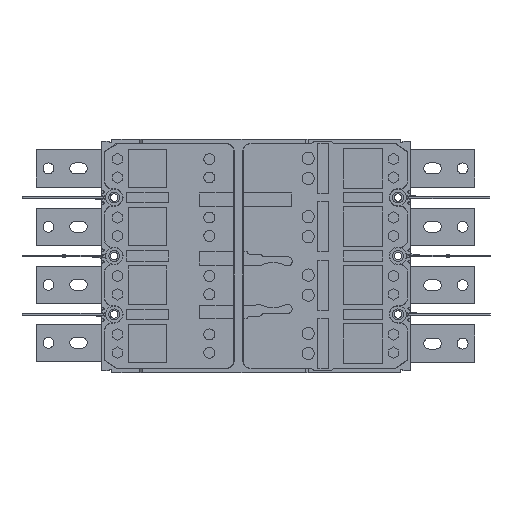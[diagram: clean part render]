
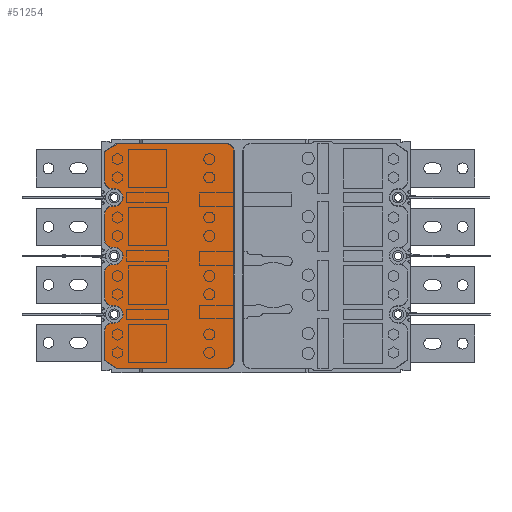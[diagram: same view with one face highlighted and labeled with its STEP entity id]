
A CAD part, top view. The second image highlights one B-rep face of the part: STEP entity #51254.
In plain terms, the highlighted planar face has unit normal (0, 0, 1).
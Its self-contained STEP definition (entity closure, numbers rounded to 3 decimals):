
#50750=DIRECTION('',(0.,1.,0.));
#50751=VECTOR('',#50750,130.25);
#50752=CARTESIAN_POINT('',(269.,9.5,0.8));
#50753=LINE('',#50752,#50751);
#50754=CARTESIAN_POINT('',(259.5,9.5,0.8));
#50755=DIRECTION('',(0.,0.,1.));
#50756=DIRECTION('',(0.,-1.,0.));
#50757=AXIS2_PLACEMENT_3D('',#50754,#50755,#50756);
#50759=DIRECTION('',(1.,0.,0.));
#50760=VECTOR('',#50759,250.);
#50761=CARTESIAN_POINT('',(9.5,0.,0.8));
#50762=LINE('',#50761,#50760);
#50763=CARTESIAN_POINT('',(9.5,9.5,0.8));
#50764=DIRECTION('',(0.,0.,1.));
#50765=DIRECTION('',(-1.,0.,0.));
#50766=AXIS2_PLACEMENT_3D('',#50763,#50764,#50765);
#50768=DIRECTION('',(0.,-1.,0.));
#50769=VECTOR('',#50768,130.5);
#50770=CARTESIAN_POINT('',(0.,140.,0.8));
#50771=LINE('',#50770,#50769);
#50772=DIRECTION('',(-0.551,-0.834,0.));
#50773=VECTOR('',#50772,17.681);
#50774=CARTESIAN_POINT('',(9.75,154.75,0.8));
#50775=LINE('',#50774,#50773);
#50776=DIRECTION('',(-1.,0.,0.));
#50777=VECTOR('',#50776,34.75);
#50778=CARTESIAN_POINT('',(44.5,154.75,0.8));
#50779=LINE('',#50778,#50777);
#50780=CARTESIAN_POINT('',(44.5,145.25,0.8));
#50781=DIRECTION('',(0.,0.,1.));
#50782=DIRECTION('',(1.,0.,0.));
#50783=AXIS2_PLACEMENT_3D('',#50780,#50781,#50782);
#50785=DIRECTION('',(0.,1.,0.));
#50786=VECTOR('',#50785,2.);
#50787=CARTESIAN_POINT('',(54.,143.25,0.8));
#50788=LINE('',#50787,#50786);
#50789=CARTESIAN_POINT('',(64.5,143.25,0.8));
#50790=DIRECTION('',(0.,0.,-1.));
#50791=DIRECTION('',(1.,0.,0.));
#50792=AXIS2_PLACEMENT_3D('',#50789,#50790,#50791);
#50794=DIRECTION('',(0.,-1.,0.));
#50795=VECTOR('',#50794,2.);
#50796=CARTESIAN_POINT('',(75.,145.25,0.8));
#50797=LINE('',#50796,#50795);
#50798=CARTESIAN_POINT('',(84.5,145.25,0.8));
#50799=DIRECTION('',(0.,0.,1.));
#50800=DIRECTION('',(0.,1.,0.));
#50801=AXIS2_PLACEMENT_3D('',#50798,#50799,#50800);
#50803=DIRECTION('',(-1.,0.,0.));
#50804=VECTOR('',#50803,30.);
#50805=CARTESIAN_POINT('',(114.5,154.75,0.8));
#50806=LINE('',#50805,#50804);
#50807=CARTESIAN_POINT('',(114.5,145.25,0.8));
#50808=DIRECTION('',(0.,0.,1.));
#50809=DIRECTION('',(1.,0.,0.));
#50810=AXIS2_PLACEMENT_3D('',#50807,#50808,#50809);
#50812=DIRECTION('',(0.,1.,0.));
#50813=VECTOR('',#50812,2.);
#50814=CARTESIAN_POINT('',(124.,143.25,0.8));
#50815=LINE('',#50814,#50813);
#50816=CARTESIAN_POINT('',(134.5,143.25,0.8));
#50817=DIRECTION('',(0.,0.,-1.));
#50818=DIRECTION('',(1.,0.,0.));
#50819=AXIS2_PLACEMENT_3D('',#50816,#50817,#50818);
#50821=DIRECTION('',(0.,-1.,0.));
#50822=VECTOR('',#50821,2.);
#50823=CARTESIAN_POINT('',(145.,145.25,0.8));
#50824=LINE('',#50823,#50822);
#50825=CARTESIAN_POINT('',(154.5,145.25,0.8));
#50826=DIRECTION('',(0.,0.,1.));
#50827=DIRECTION('',(0.,1.,0.));
#50828=AXIS2_PLACEMENT_3D('',#50825,#50826,#50827);
#50830=DIRECTION('',(-1.,0.,0.));
#50831=VECTOR('',#50830,30.);
#50832=CARTESIAN_POINT('',(184.5,154.75,0.8));
#50833=LINE('',#50832,#50831);
#50834=CARTESIAN_POINT('',(184.5,145.25,0.8));
#50835=DIRECTION('',(0.,0.,1.));
#50836=DIRECTION('',(1.,0.,0.));
#50837=AXIS2_PLACEMENT_3D('',#50834,#50835,#50836);
#50839=DIRECTION('',(0.,1.,0.));
#50840=VECTOR('',#50839,2.);
#50841=CARTESIAN_POINT('',(194.,143.25,0.8));
#50842=LINE('',#50841,#50840);
#50843=CARTESIAN_POINT('',(204.5,143.25,0.8));
#50844=DIRECTION('',(0.,0.,-1.));
#50845=DIRECTION('',(1.,0.,0.));
#50846=AXIS2_PLACEMENT_3D('',#50843,#50844,#50845);
#50848=DIRECTION('',(0.,-1.,0.));
#50849=VECTOR('',#50848,2.);
#50850=CARTESIAN_POINT('',(215.,145.25,0.8));
#50851=LINE('',#50850,#50849);
#50852=CARTESIAN_POINT('',(224.5,145.25,0.8));
#50853=DIRECTION('',(0.,0.,1.));
#50854=DIRECTION('',(0.,1.,0.));
#50855=AXIS2_PLACEMENT_3D('',#50852,#50853,#50854);
#50857=DIRECTION('',(-1.,0.,0.));
#50858=VECTOR('',#50857,34.5);
#50859=CARTESIAN_POINT('',(259.,154.75,0.8));
#50860=LINE('',#50859,#50858);
#50861=DIRECTION('',(-0.555,0.832,0.));
#50862=VECTOR('',#50861,18.028);
#50863=CARTESIAN_POINT('',(269.,139.75,0.8));
#50864=LINE('',#50863,#50862);
#51081=CARTESIAN_POINT('',(114.5,154.75,0.8));
#51083=VERTEX_POINT('',#51081);
#51085=CARTESIAN_POINT('',(9.5,0.,0.8));
#51087=VERTEX_POINT('',#51085);
#51088=CARTESIAN_POINT('',(259.5,0.,0.8));
#51089=VERTEX_POINT('',#51088);
#51094=CARTESIAN_POINT('',(269.,139.75,0.8));
#51096=VERTEX_POINT('',#51094);
#51099=CARTESIAN_POINT('',(44.5,154.75,0.8));
#51101=VERTEX_POINT('',#51099);
#51102=CARTESIAN_POINT('',(269.,9.5,0.8));
#51103=VERTEX_POINT('',#51102);
#51104=CARTESIAN_POINT('',(224.5,154.75,0.8));
#51106=VERTEX_POINT('',#51104);
#51118=CARTESIAN_POINT('',(145.,143.25,0.8));
#51119=CARTESIAN_POINT('',(124.,143.25,0.8));
#51120=VERTEX_POINT('',#51118);
#51121=VERTEX_POINT('',#51119);
#51122=CARTESIAN_POINT('',(0.,140.,0.8));
#51123=CARTESIAN_POINT('',(0.,9.5,0.8));
#51124=VERTEX_POINT('',#51122);
#51125=VERTEX_POINT('',#51123);
#51127=CARTESIAN_POINT('',(259.,154.75,0.8));
#51129=VERTEX_POINT('',#51127);
#51130=CARTESIAN_POINT('',(75.,143.25,0.8));
#51132=VERTEX_POINT('',#51130);
#51136=CARTESIAN_POINT('',(124.,145.25,0.8));
#51137=VERTEX_POINT('',#51136);
#51142=CARTESIAN_POINT('',(154.5,154.75,0.8));
#51143=VERTEX_POINT('',#51142);
#51144=CARTESIAN_POINT('',(75.,145.25,0.8));
#51145=VERTEX_POINT('',#51144);
#51146=CARTESIAN_POINT('',(9.75,154.75,0.8));
#51147=VERTEX_POINT('',#51146);
#51150=CARTESIAN_POINT('',(194.,143.25,0.8));
#51151=VERTEX_POINT('',#51150);
#51158=CARTESIAN_POINT('',(84.5,154.75,0.8));
#51159=VERTEX_POINT('',#51158);
#51160=CARTESIAN_POINT('',(215.,143.25,0.8));
#51161=VERTEX_POINT('',#51160);
#51164=CARTESIAN_POINT('',(54.,143.25,0.8));
#51165=VERTEX_POINT('',#51164);
#51166=CARTESIAN_POINT('',(54.,145.25,0.8));
#51167=VERTEX_POINT('',#51166);
#51168=CARTESIAN_POINT('',(215.,145.25,0.8));
#51169=VERTEX_POINT('',#51168);
#51170=CARTESIAN_POINT('',(145.,145.25,0.8));
#51171=VERTEX_POINT('',#51170);
#51172=CARTESIAN_POINT('',(184.5,154.75,0.8));
#51173=VERTEX_POINT('',#51172);
#51176=CARTESIAN_POINT('',(194.,145.25,0.8));
#51177=VERTEX_POINT('',#51176);
#51196=CARTESIAN_POINT('',(134.5,77.375,0.8));
#51197=DIRECTION('',(0.,0.,1.));
#51198=DIRECTION('',(1.,0.,0.));
#51199=AXIS2_PLACEMENT_3D('',#51196,#51197,#51198);
#51200=PLANE('',#51199);
#51202=ORIENTED_EDGE('',*,*,#51201,.F.);
#51204=ORIENTED_EDGE('',*,*,#51203,.F.);
#51206=ORIENTED_EDGE('',*,*,#51205,.F.);
#51208=ORIENTED_EDGE('',*,*,#51207,.F.);
#51210=ORIENTED_EDGE('',*,*,#51209,.F.);
#51212=ORIENTED_EDGE('',*,*,#51211,.F.);
#51214=ORIENTED_EDGE('',*,*,#51213,.F.);
#51216=ORIENTED_EDGE('',*,*,#51215,.F.);
#51218=ORIENTED_EDGE('',*,*,#51217,.F.);
#51219=ORIENTED_EDGE('',*,*,#51185,.F.);
#51221=ORIENTED_EDGE('',*,*,#51220,.F.);
#51223=ORIENTED_EDGE('',*,*,#51222,.F.);
#51225=ORIENTED_EDGE('',*,*,#51224,.F.);
#51227=ORIENTED_EDGE('',*,*,#51226,.F.);
#51229=ORIENTED_EDGE('',*,*,#51228,.F.);
#51231=ORIENTED_EDGE('',*,*,#51230,.F.);
#51233=ORIENTED_EDGE('',*,*,#51232,.F.);
#51235=ORIENTED_EDGE('',*,*,#51234,.F.);
#51237=ORIENTED_EDGE('',*,*,#51236,.F.);
#51239=ORIENTED_EDGE('',*,*,#51238,.F.);
#51241=ORIENTED_EDGE('',*,*,#51240,.F.);
#51243=ORIENTED_EDGE('',*,*,#51242,.F.);
#51245=ORIENTED_EDGE('',*,*,#51244,.F.);
#51247=ORIENTED_EDGE('',*,*,#51246,.F.);
#51249=ORIENTED_EDGE('',*,*,#51248,.F.);
#51251=ORIENTED_EDGE('',*,*,#51250,.F.);
#51252=EDGE_LOOP('',(#51202,#51204,#51206,#51208,#51210,#51212,#51214,#51216,
#51218,#51219,#51221,#51223,#51225,#51227,#51229,#51231,#51233,#51235,#51237,
#51239,#51241,#51243,#51245,#51247,#51249,#51251));
#51253=FACE_OUTER_BOUND('',#51252,.F.);
#51254=ADVANCED_FACE('',(#51253),#51200,.T.);
#50758=CIRCLE('',#50757,9.5);
#50767=CIRCLE('',#50766,9.5);
#50784=CIRCLE('',#50783,9.5);
#50793=CIRCLE('',#50792,10.5);
#50802=CIRCLE('',#50801,9.5);
#50811=CIRCLE('',#50810,9.5);
#50820=CIRCLE('',#50819,10.5);
#50829=CIRCLE('',#50828,9.5);
#50838=CIRCLE('',#50837,9.5);
#50847=CIRCLE('',#50846,10.5);
#50856=CIRCLE('',#50855,9.5);
#51185=EDGE_CURVE('',#51132,#51165,#50793,.T.);
#51201=EDGE_CURVE('',#51103,#51096,#50753,.T.);
#51203=EDGE_CURVE('',#51089,#51103,#50758,.T.);
#51205=EDGE_CURVE('',#51087,#51089,#50762,.T.);
#51207=EDGE_CURVE('',#51125,#51087,#50767,.T.);
#51209=EDGE_CURVE('',#51124,#51125,#50771,.T.);
#51211=EDGE_CURVE('',#51147,#51124,#50775,.T.);
#51213=EDGE_CURVE('',#51101,#51147,#50779,.T.);
#51215=EDGE_CURVE('',#51167,#51101,#50784,.T.);
#51217=EDGE_CURVE('',#51165,#51167,#50788,.T.);
#51220=EDGE_CURVE('',#51145,#51132,#50797,.T.);
#51222=EDGE_CURVE('',#51159,#51145,#50802,.T.);
#51224=EDGE_CURVE('',#51083,#51159,#50806,.T.);
#51226=EDGE_CURVE('',#51137,#51083,#50811,.T.);
#51228=EDGE_CURVE('',#51121,#51137,#50815,.T.);
#51230=EDGE_CURVE('',#51120,#51121,#50820,.T.);
#51232=EDGE_CURVE('',#51171,#51120,#50824,.T.);
#51234=EDGE_CURVE('',#51143,#51171,#50829,.T.);
#51236=EDGE_CURVE('',#51173,#51143,#50833,.T.);
#51238=EDGE_CURVE('',#51177,#51173,#50838,.T.);
#51240=EDGE_CURVE('',#51151,#51177,#50842,.T.);
#51242=EDGE_CURVE('',#51161,#51151,#50847,.T.);
#51244=EDGE_CURVE('',#51169,#51161,#50851,.T.);
#51246=EDGE_CURVE('',#51106,#51169,#50856,.T.);
#51248=EDGE_CURVE('',#51129,#51106,#50860,.T.);
#51250=EDGE_CURVE('',#51096,#51129,#50864,.T.);
